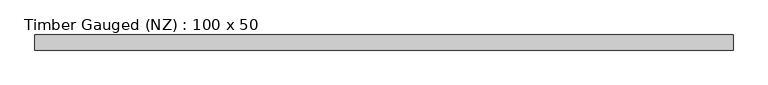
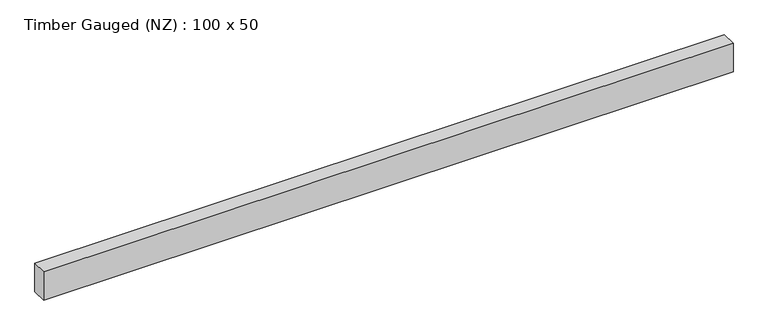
"""IFC4 building model written with IfcOpenShell, lengths in millimetres: beam geometry, Timber Gauged (NZ) : 100 x 50."""

from ifc_helpers import new_model, si_unit, frame, origin, place, context, project, spatial, polyline, outline, extrude, source, transform, mapped, element, save


def timber_gauged_nz_100_x_50_7774ab14(model_context):
    return source(origin(), model_context, "Body", "SweptSolid", [
        extrude(outline(polyline([(1080.5, 23.5), (1080.5, -23.5), (-1089.5, -23.5), (-1089.5, 23.5), (1080.5, 23.5)])), frame((0.0, 0.0, -47.0), z_axis=(0.0, 0.0, 1.0), x_axis=(1.0, 0.0, 0.0)), (0.0, 0.0, 1.0), 94.0),
    ])


if __name__ == "__main__":
    model = new_model("IFC4")
    model_context = context("Model", 3, world=origin())
    ifc_project = project(units=[si_unit("LENGTHUNIT", "METRE", prefix="MILLI")], contexts=[model_context])
    site = spatial("IfcSite", under=ifc_project)
    building = spatial("IfcBuilding", under=site)
    placement = place(None, origin())
    timber_gauged_nz_100_x_50_shape = timber_gauged_nz_100_x_50_7774ab14(model_context)
    element("IfcBeam", 1, ObjectType="Timber Gauged (NZ) : 100 x 50", at=placement, inside=building, context=model_context, shape_type="MappedRepresentation", body=[
        mapped(timber_gauged_nz_100_x_50_shape, transform((0.0, 0.0, 0.0), x_axis=(1.0, 0.0, 0.0), y_axis=(0.0, 1.0, 0.0), z_axis=(0.0, 0.0, 1.0))),
    ])
    save(model, "model.ifc")
